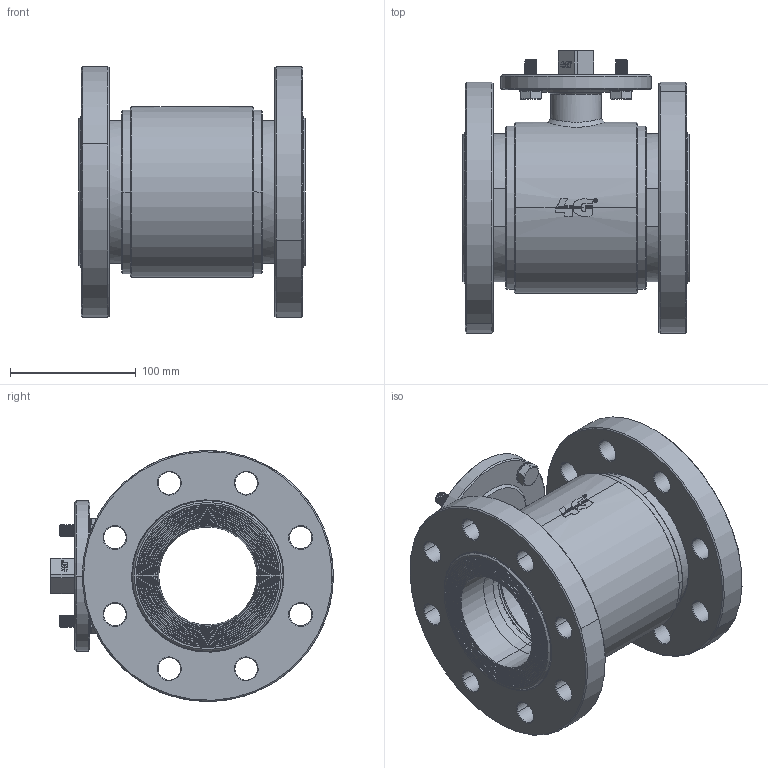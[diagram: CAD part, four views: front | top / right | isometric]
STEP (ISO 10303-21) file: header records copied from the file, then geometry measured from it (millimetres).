
FILE_DESCRIPTION((''),'2;1');
FILE_NAME('1030526481F_SW0001','2026-03-27T08:48:05',('tecnico2'),('CDM Tecnoconsulting'),'CREO PARAMETRIC BY PTC INC, 2024063','CREO PARAMETRIC BY PTC INC, 2024063','');
FILE_SCHEMA(('CONFIG_CONTROL_DESIGN','SHAPE_APPEARANCE_LAYERS_GROUPS'));
Products named in the file (1): 1030526481F_SW0001
Bounding box: 180 x 224.9 x 199.81 mm (x, y, z)
Volume: 2293594.2 mm3; surface area: 378250.6 mm2
Topology: 1 solids, 1 shells, 1690 faces, 4561 edges, 2937 vertices
Faces by surface type: plane 659, cylinder 467, cone 279, extrusion 111, bspline 100, torus 70, sphere 4
Entity records: 97911 total; most frequent: CARTESIAN_POINT 43459, ORIENTED_EDGE 9106, DIRECTION 7363, PRESENTATION_STYLE_ASSIGNMENT 4610, STYLED_ITEM 4554, CURVE_STYLE 4553, EDGE_CURVE 4553, VERTEX_POINT 2937
